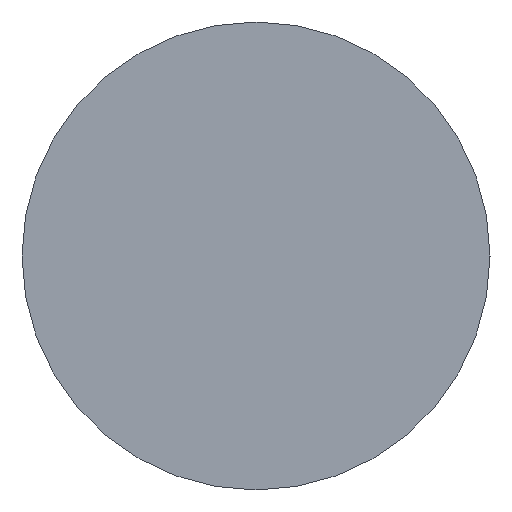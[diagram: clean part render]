
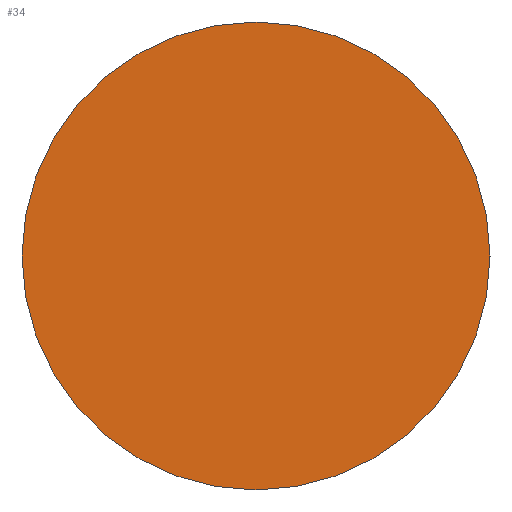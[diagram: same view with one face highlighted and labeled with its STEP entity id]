
A CAD part, left-side view. The second image highlights one B-rep face of the part: STEP entity #34.
In plain terms, the highlighted planar face has unit normal (-1, 0, 0).
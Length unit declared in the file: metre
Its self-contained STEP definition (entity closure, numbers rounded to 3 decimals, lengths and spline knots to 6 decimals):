
#12=PLANE('',#52);
#16=ORIENTED_EDGE('',*,*,#18,.F.);
#18=EDGE_CURVE('',#20,#20,#22,.T.);
#20=VERTEX_POINT('',#69);
#22=CIRCLE('',#50,0.0014);
#26=EDGE_LOOP('',(#16));
#30=FACE_BOUND('',#26,.T.);
#34=ADVANCED_FACE('',(#30),#12,.T.);
#50=AXIS2_PLACEMENT_3D('',#68,#58,#59);
#52=AXIS2_PLACEMENT_3D('',#72,#62,#63);
#58=DIRECTION('',(1.,0.,0.));
#59=DIRECTION('',(0.,1.,0.));
#62=DIRECTION('',(-1.,0.,0.));
#63=DIRECTION('',(0.,1.,0.));
#68=CARTESIAN_POINT('',(0.06003,0.011938,-0.044683));
#69=CARTESIAN_POINT('',(0.06003,0.013338,-0.044683));
#72=CARTESIAN_POINT('',(0.06003,0.011938,-0.044683));
